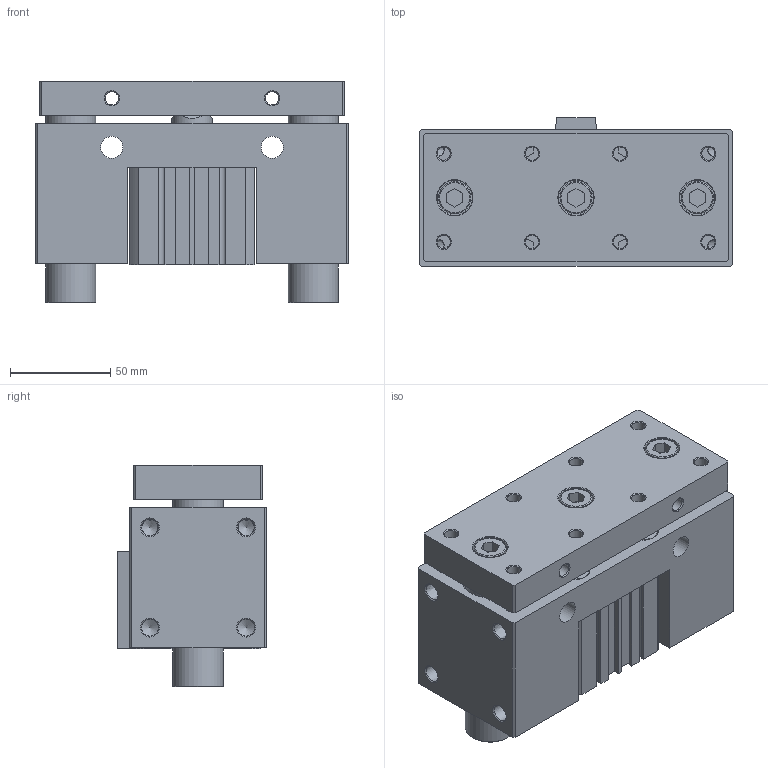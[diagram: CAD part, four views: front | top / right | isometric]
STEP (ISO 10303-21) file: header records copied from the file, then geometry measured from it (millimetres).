
FILE_DESCRIPTION((''),'2;1');
FILE_NAME('I:\3D電子目錄\氣缸\JCB\JCB\JCB50\JCB50x20.stp','2007-08-30T15:53:35',('Administrator'),(''),'Autodesk Inventor 11','Autodesk Inventor 11','');
FILE_SCHEMA(('AUTOMOTIVE_DESIGN { 1 0 10303 214 1 1 1 1 }'));
Length unit declared in the file: millimetre
Products named in the file (1): JCB50
Bounding box: 156 x 74 x 110.5 mm (x, y, z)
Volume: 826695.8 mm3; surface area: 156380.8 mm2
Topology: 3 solids, 3 shells, 328 faces, 786 edges, 510 vertices
Faces by surface type: plane 190, cylinder 58, cone 45, bspline 31, torus 4
Full cylindrical faces by diameter (mm): 2.7 x2, 6.8 x4, 8.376 x4, 11 x8, 13 x4, 14 x4, 16 x3, 17.5 x3, 20 x1, 21 x1, 25 x2, 28 x2, 37 x1, 38 x1, 52 x4, 55 x2
Entity records: 9390 total; most frequent: CARTESIAN_POINT 2294, DIRECTION 1434, ORIENTED_EDGE 1264, EDGE_CURVE 632, EDGE_LOOP 536, AXIS2_PLACEMENT_3D 512, VERTEX_POINT 480, VECTOR 410
